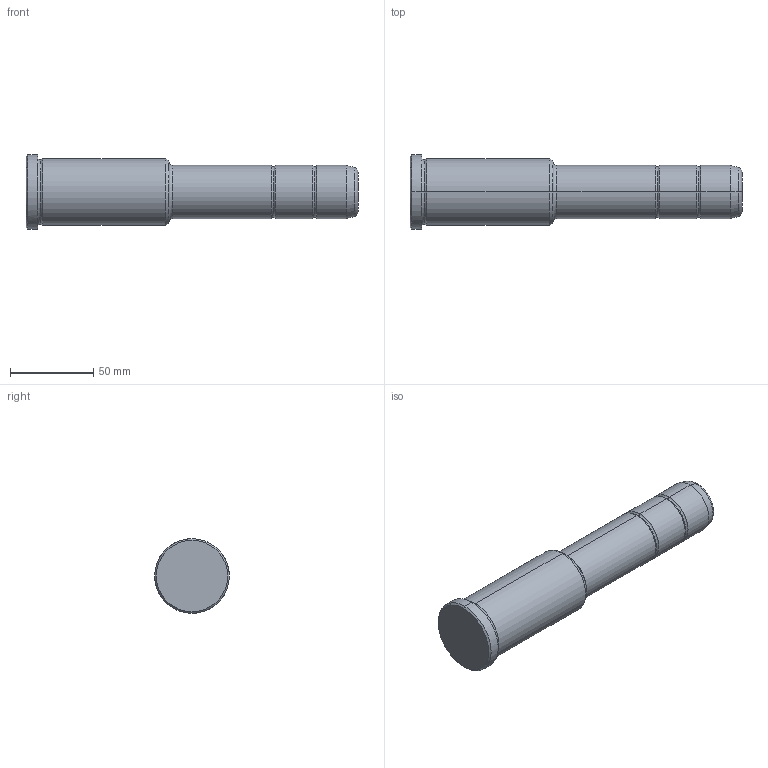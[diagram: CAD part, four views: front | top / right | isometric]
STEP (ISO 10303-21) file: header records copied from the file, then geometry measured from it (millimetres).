
FILE_DESCRIPTION(('CATIA V5 STEP Exchange'),'2;1');
FILE_NAME('C:\Users\Utente\Desktop\IO LAVORO\3D X SITO CF\X SITO\PLASTICA\351\351-32X86X200.stp','2021-09-10T12:27:08+00:00',('none'),('none'),'CATIA Version 5 Release 20 GA (IN-10)','CATIA V5 STEP AP203','none');
FILE_SCHEMA(('CONFIG_CONTROL_DESIGN'));
Length unit declared in the file: millimetre
Products named in the file (1): 351-32X86X200
Bounding box: 200 x 45 x 45 mm (x, y, z)
Volume: 200886.3 mm3; surface area: 25129.1 mm2
Topology: 1 solids, 1 shells, 36 faces, 102 edges, 70 vertices
Faces by surface type: torus 16, cylinder 10, cone 6, plane 4
Entity records: 1292 total; most frequent: CARTESIAN_POINT 321, ORIENTED_EDGE 204, DIRECTION 166, AXIS2_PLACEMENT_3D 115, EDGE_CURVE 102, CIRCLE 78, VERTEX_POINT 70, EDGE_LOOP 38
